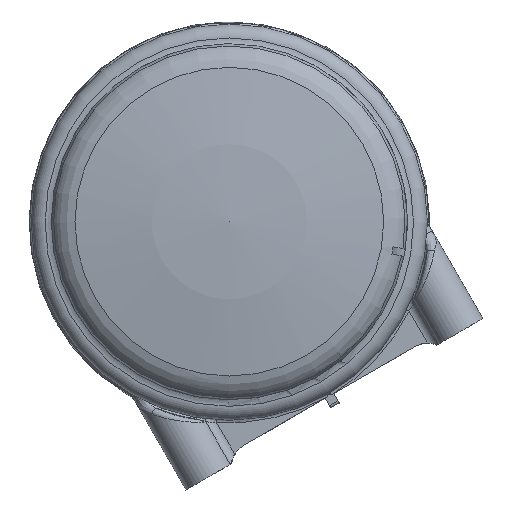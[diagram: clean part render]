
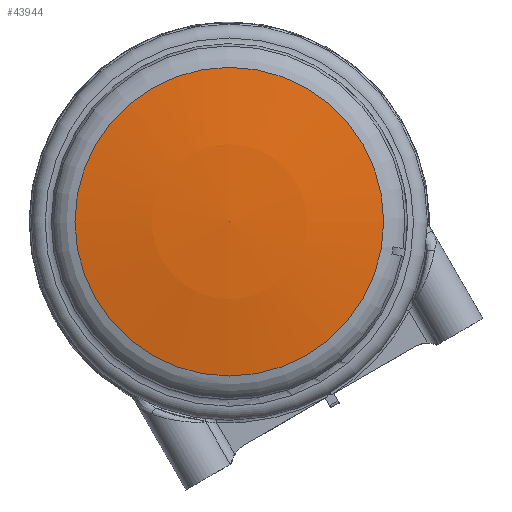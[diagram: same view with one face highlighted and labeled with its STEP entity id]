
A CAD part, top view. The second image highlights one B-rep face of the part: STEP entity #43944.
In plain terms, the highlighted spherical face has radius 190 mm.
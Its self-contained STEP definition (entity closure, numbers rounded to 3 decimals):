
#351=SPHERICAL_SURFACE('',#58212,190.);
#11682=ORIENTED_EDGE('',*,*,#24555,.F.);
#24555=EDGE_CURVE('',#36093,#36093,#30961,.T.);
#30961=CIRCLE('',#58173,31.949);
#32212=EDGE_LOOP('',(#11682));
#36093=VERTEX_POINT('',#73738);
#40437=FACE_BOUND('',#32212,.T.);
#43944=ADVANCED_FACE('',(#40437),#351,.T.);
#58173=AXIS2_PLACEMENT_3D('',#73737,#62293,#62294);
#58212=AXIS2_PLACEMENT_3D('',#73923,#62399,#62400);
#62293=DIRECTION('',(0.,0.,-1.));
#62294=DIRECTION('',(-1.,0.,0.));
#62399=DIRECTION('',(0.,0.,-1.));
#62400=DIRECTION('',(1.,0.,0.));
#73737=CARTESIAN_POINT('',(0.,0.,9.795));
#73738=CARTESIAN_POINT('',(-31.949,0.,9.795));
#73923=CARTESIAN_POINT('',(0.,0.,-177.5));
